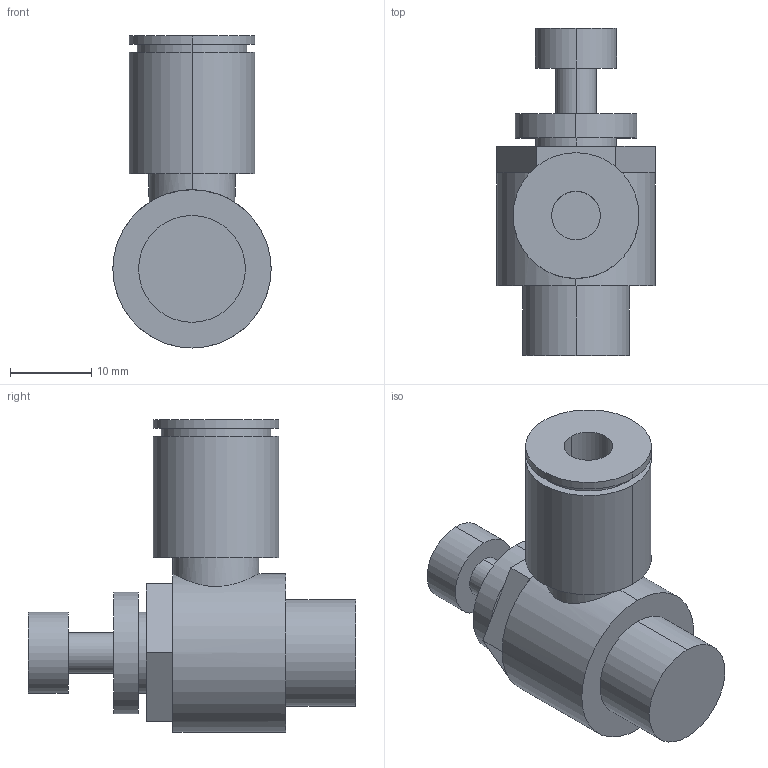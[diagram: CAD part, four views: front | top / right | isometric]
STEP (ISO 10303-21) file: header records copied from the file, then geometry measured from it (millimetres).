
FILE_DESCRIPTION( ( '' ), '1' );
FILE_NAME( 'G:/SMC狟婥/AS2201F-02-06SA.stp', '2023-03-07T03:46:20', ( '' ), ( '' ), ' ', ' ', ' ' );
FILE_SCHEMA( ( 'CONFIG_CONTROL_DESIGN' ) );
Length unit declared in the file: millimetre
Products named in the file (1): 1
Bounding box: 19.63 x 40.3 x 38.45 mm (x, y, z)
Volume: 10131.5 mm3; surface area: 4247.5 mm2
Topology: 1 solids, 1 shells, 52 faces, 108 edges, 67 vertices
Faces by surface type: plane 30, cylinder 22
Entity records: 1493 total; most frequent: CARTESIAN_POINT 295, DIRECTION 266, ORIENTED_EDGE 216, EDGE_CURVE 108, AXIS2_PLACEMENT_3D 107, VERTEX_POINT 67, EDGE_LOOP 61, CIRCLE 54
